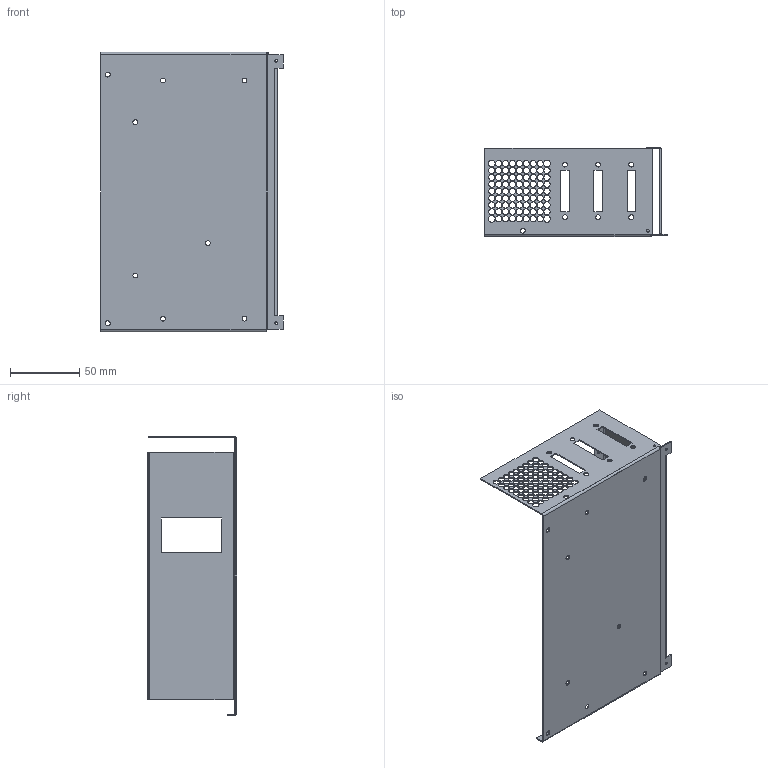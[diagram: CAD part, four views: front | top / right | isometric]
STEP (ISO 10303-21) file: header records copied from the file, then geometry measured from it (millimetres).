
FILE_DESCRIPTION (( 'STEP AP203' ), '1' );
FILE_NAME ('×Ï1.00.00.001-Îñíîâàíèå êîðïóñà.STEP', '2009-11-11T08:08:48', ( 'User' ), ( 'Microsoft Corporation' ), 'SwSTEP 2.0', 'SolidWorks 2008', '' );
FILE_SCHEMA (( 'CONFIG_CONTROL_DESIGN' ));
Length unit declared in the file: millimetre
Products named in the file (1): ×Ï1.00.00.001-Îñíîâàíèå êîðïóñà
Bounding box: 132 x 64.8 x 202.2 mm (x, y, z)
Volume: 35212.8 mm3; surface area: 90190.9 mm2
Topology: 1 solids, 1 shells, 281 faces, 793 edges, 514 vertices
Faces by surface type: cylinder 220, plane 61
Entity records: 9784 total; most frequent: DIRECTION 1797, CARTESIAN_POINT 1589, ORIENTED_EDGE 1586, EDGE_CURVE 793, AXIS2_PLACEMENT_3D 722, VERTEX_POINT 514, EDGE_LOOP 497, CIRCLE 440
